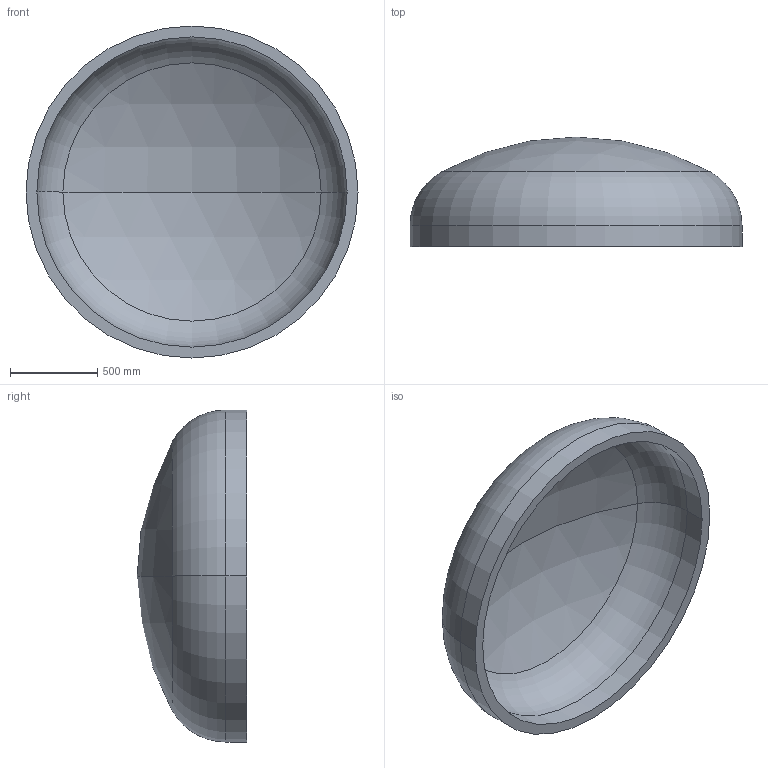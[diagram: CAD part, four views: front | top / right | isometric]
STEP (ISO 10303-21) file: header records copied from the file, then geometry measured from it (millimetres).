
FILE_DESCRIPTION (( 'STEP AP203' ), '1' );
FILE_NAME ('DIN 28013 Korbbogenform_-_Boden DIN 28013 - 1900 x 120 - I - s=62.step', '2016-07-01T13:15:43', ( '' ), ( '' ), 'SwSTEP 2.0', 'SolidWorks 2013', '' );
FILE_SCHEMA (( 'CONFIG_CONTROL_DESIGN' ));
Length unit declared in the file: millimetre
Products named in the file (1): DIN 28013 Korbbogenform_-_Boden DIN 28013 - 1900 x 120 - I - s=62
Bounding box: 1900 x 627.15 x 1900 mm (x, y, z)
Volume: 275867142.7 mm3; surface area: 9264991.6 mm2
Topology: 1 solids, 1 shells, 13 faces, 24 edges, 14 vertices
Faces by surface type: torus 4, cylinder 4, sphere 4, plane 1
Entity records: 407 total; most frequent: DIRECTION 72, CARTESIAN_POINT 52, ORIENTED_EDGE 48, AXIS2_PLACEMENT_3D 34, EDGE_CURVE 24, CIRCLE 20, EDGE_LOOP 14, VERTEX_POINT 14
